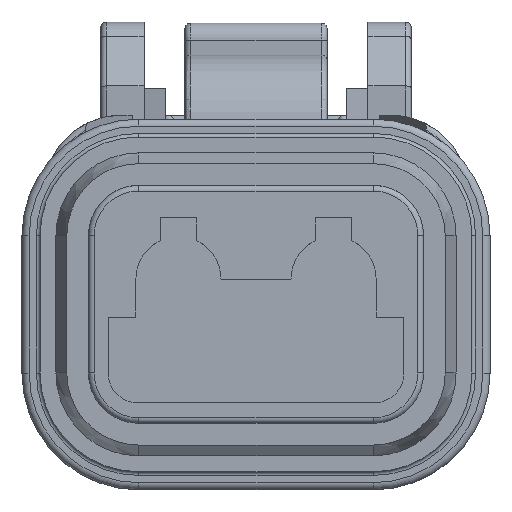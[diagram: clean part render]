
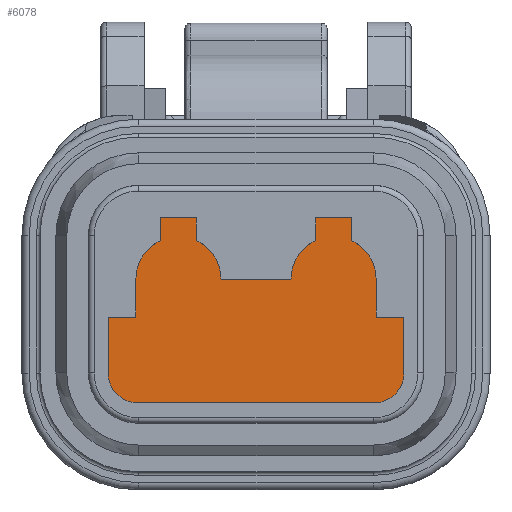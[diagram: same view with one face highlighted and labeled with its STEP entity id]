
A CAD part, top view. The second image highlights one B-rep face of the part: STEP entity #6078.
In plain terms, the highlighted planar face has unit normal (0, 0, 1).
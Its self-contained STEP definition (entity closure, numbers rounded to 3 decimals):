
#272=DIRECTION('',(1.,0.,0.));
#273=VECTOR('',#272,8.458);
#274=CARTESIAN_POINT('',(-4.229,-3.462,-1.));
#275=LINE('',#274,#273);
#344=DIRECTION('',(0.,1.,0.));
#345=VECTOR('',#344,1.337);
#346=CARTESIAN_POINT('',(4.23,-0.45,-1.));
#347=LINE('',#346,#345);
#348=DIRECTION('',(-1.,0.,0.));
#349=VECTOR('',#348,0.978);
#350=CARTESIAN_POINT('',(5.208,-0.45,-1.));
#351=LINE('',#350,#349);
#352=DIRECTION('',(0.,1.,0.));
#353=VECTOR('',#352,1.973);
#354=CARTESIAN_POINT('',(5.208,-2.423,-1.));
#355=LINE('',#354,#353);
#356=CARTESIAN_POINT('',(4.229,-3.462,-1.));
#357=CARTESIAN_POINT('',(4.319,-3.457,-1.));
#358=CARTESIAN_POINT('',(4.488,-3.423,-1.));
#359=CARTESIAN_POINT('',(4.729,-3.312,-1.));
#360=CARTESIAN_POINT('',(4.932,-3.144,-1.));
#361=CARTESIAN_POINT('',(5.088,-2.931,-1.));
#362=CARTESIAN_POINT('',(5.185,-2.684,-1.));
#363=CARTESIAN_POINT('',(5.208,-2.512,-1.));
#364=CARTESIAN_POINT('',(5.208,-2.423,-1.));
#366=CARTESIAN_POINT('',(-5.208,-2.423,-1.));
#367=CARTESIAN_POINT('',(-5.208,-2.512,-1.));
#368=CARTESIAN_POINT('',(-5.185,-2.684,-1.));
#369=CARTESIAN_POINT('',(-5.088,-2.931,-1.));
#370=CARTESIAN_POINT('',(-4.932,-3.144,-1.));
#371=CARTESIAN_POINT('',(-4.729,-3.312,-1.));
#372=CARTESIAN_POINT('',(-4.488,-3.423,-1.));
#373=CARTESIAN_POINT('',(-4.319,-3.457,-1.));
#374=CARTESIAN_POINT('',(-4.229,-3.462,-1.));
#376=DIRECTION('',(0.,-1.,0.));
#377=VECTOR('',#376,1.973);
#378=CARTESIAN_POINT('',(-5.208,-0.45,-1.));
#379=LINE('',#378,#377);
#380=DIRECTION('',(-1.,0.,0.));
#381=VECTOR('',#380,0.978);
#382=CARTESIAN_POINT('',(-4.23,-0.45,-1.));
#383=LINE('',#382,#381);
#384=DIRECTION('',(0.,-1.,0.));
#385=VECTOR('',#384,1.337);
#386=CARTESIAN_POINT('',(-4.23,0.887,-1.));
#387=LINE('',#386,#385);
#388=CARTESIAN_POINT('',(-2.73,0.887,-1.));
#389=DIRECTION('',(0.,0.,1.));
#390=DIRECTION('',(-0.423,0.906,0.));
#391=AXIS2_PLACEMENT_3D('',#388,#389,#390);
#393=DIRECTION('',(0.,-1.,0.));
#394=VECTOR('',#393,0.801);
#395=CARTESIAN_POINT('',(-3.365,3.047,-1.));
#396=LINE('',#395,#394);
#397=DIRECTION('',(-1.,0.,0.));
#398=VECTOR('',#397,1.27);
#399=CARTESIAN_POINT('',(-2.095,3.047,-1.));
#400=LINE('',#399,#398);
#401=DIRECTION('',(0.,1.,0.));
#402=VECTOR('',#401,0.801);
#403=CARTESIAN_POINT('',(-2.095,2.246,-1.));
#404=LINE('',#403,#402);
#405=CARTESIAN_POINT('',(-2.73,0.887,-1.));
#406=DIRECTION('',(0.,0.,1.));
#407=DIRECTION('',(1.,0.,0.));
#408=AXIS2_PLACEMENT_3D('',#405,#406,#407);
#410=DIRECTION('',(-1.,0.,0.));
#411=VECTOR('',#410,2.46);
#412=CARTESIAN_POINT('',(1.23,0.887,-1.));
#413=LINE('',#412,#411);
#414=CARTESIAN_POINT('',(2.73,0.887,-1.));
#415=DIRECTION('',(0.,0.,1.));
#416=DIRECTION('',(-0.423,0.906,0.));
#417=AXIS2_PLACEMENT_3D('',#414,#415,#416);
#419=DIRECTION('',(0.,-1.,0.));
#420=VECTOR('',#419,0.801);
#421=CARTESIAN_POINT('',(2.095,3.047,-1.));
#422=LINE('',#421,#420);
#423=DIRECTION('',(-1.,0.,0.));
#424=VECTOR('',#423,1.27);
#425=CARTESIAN_POINT('',(3.365,3.047,-1.));
#426=LINE('',#425,#424);
#427=DIRECTION('',(0.,1.,0.));
#428=VECTOR('',#427,0.801);
#429=CARTESIAN_POINT('',(3.365,2.246,-1.));
#430=LINE('',#429,#428);
#431=CARTESIAN_POINT('',(2.73,0.887,-1.));
#432=DIRECTION('',(0.,0.,1.));
#433=DIRECTION('',(1.,0.,0.));
#434=AXIS2_PLACEMENT_3D('',#431,#432,#433);
#4665=CARTESIAN_POINT('',(4.23,0.887,-1.));
#4666=CARTESIAN_POINT('',(3.365,2.246,-1.));
#4667=VERTEX_POINT('',#4665);
#4668=VERTEX_POINT('',#4666);
#4673=CARTESIAN_POINT('',(3.365,3.047,-1.));
#4674=VERTEX_POINT('',#4673);
#4675=CARTESIAN_POINT('',(2.095,3.047,-1.));
#4676=VERTEX_POINT('',#4675);
#4677=CARTESIAN_POINT('',(2.095,2.246,-1.));
#4678=VERTEX_POINT('',#4677);
#4679=CARTESIAN_POINT('',(-3.365,2.246,-1.));
#4680=CARTESIAN_POINT('',(-4.23,0.887,-1.));
#4681=VERTEX_POINT('',#4679);
#4682=VERTEX_POINT('',#4680);
#4683=CARTESIAN_POINT('',(-2.095,2.246,-1.));
#4684=CARTESIAN_POINT('',(-2.095,3.047,-1.));
#4685=VERTEX_POINT('',#4683);
#4686=VERTEX_POINT('',#4684);
#4687=CARTESIAN_POINT('',(-3.365,3.047,-1.));
#4688=VERTEX_POINT('',#4687);
#4705=CARTESIAN_POINT('',(5.208,-2.423,-1.));
#4706=CARTESIAN_POINT('',(5.208,-0.45,-1.));
#4707=VERTEX_POINT('',#4705);
#4708=VERTEX_POINT('',#4706);
#4709=CARTESIAN_POINT('',(-5.208,-0.45,-1.));
#4710=CARTESIAN_POINT('',(-5.208,-2.423,-1.));
#4711=VERTEX_POINT('',#4709);
#4712=VERTEX_POINT('',#4710);
#4724=CARTESIAN_POINT('',(-4.23,-0.45,-1.));
#4725=VERTEX_POINT('',#4724);
#4726=CARTESIAN_POINT('',(4.23,-0.45,-1.));
#4727=VERTEX_POINT('',#4726);
#4730=VERTEX_POINT('',#356);
#4731=VERTEX_POINT('',#374);
#4736=CARTESIAN_POINT('',(1.23,0.887,-1.));
#4737=VERTEX_POINT('',#4736);
#4738=CARTESIAN_POINT('',(-1.23,0.887,-1.));
#4739=VERTEX_POINT('',#4738);
#6049=CARTESIAN_POINT('',(0.,0.,-1.));
#6050=DIRECTION('',(0.,0.,1.));
#6051=DIRECTION('',(1.,0.,0.));
#6052=AXIS2_PLACEMENT_3D('',#6049,#6050,#6051);
#6053=PLANE('',#6052);
#6054=ORIENTED_EDGE('',*,*,#6040,.F.);
#6056=ORIENTED_EDGE('',*,*,#6055,.F.);
#6058=ORIENTED_EDGE('',*,*,#6057,.F.);
#6059=ORIENTED_EDGE('',*,*,#5804,.F.);
#6060=ORIENTED_EDGE('',*,*,#5819,.F.);
#6061=ORIENTED_EDGE('',*,*,#5833,.F.);
#6062=ORIENTED_EDGE('',*,*,#5847,.F.);
#6063=ORIENTED_EDGE('',*,*,#5861,.F.);
#6064=ORIENTED_EDGE('',*,*,#5876,.F.);
#6065=ORIENTED_EDGE('',*,*,#5889,.F.);
#6066=ORIENTED_EDGE('',*,*,#5903,.F.);
#6067=ORIENTED_EDGE('',*,*,#5917,.F.);
#6068=ORIENTED_EDGE('',*,*,#5931,.F.);
#6069=ORIENTED_EDGE('',*,*,#5944,.F.);
#6070=ORIENTED_EDGE('',*,*,#5959,.F.);
#6071=ORIENTED_EDGE('',*,*,#5974,.F.);
#6072=ORIENTED_EDGE('',*,*,#5987,.F.);
#6073=ORIENTED_EDGE('',*,*,#6001,.F.);
#6074=ORIENTED_EDGE('',*,*,#6015,.F.);
#6075=ORIENTED_EDGE('',*,*,#6029,.F.);
#6076=EDGE_LOOP('',(#6054,#6056,#6058,#6059,#6060,#6061,#6062,#6063,#6064,#6065,
#6066,#6067,#6068,#6069,#6070,#6071,#6072,#6073,#6074,#6075));
#6077=FACE_OUTER_BOUND('',#6076,.F.);
#365=B_SPLINE_CURVE_WITH_KNOTS('',3,(#356,#357,#358,#359,#360,#361,#362,#363,
#364),.UNSPECIFIED.,.F.,.F.,(4,1,1,1,1,1,4),(0.,0.167,
0.333,0.5,0.667,0.833,1.),
.UNSPECIFIED.);
#375=B_SPLINE_CURVE_WITH_KNOTS('',3,(#366,#367,#368,#369,#370,#371,#372,#373,
#374),.UNSPECIFIED.,.F.,.F.,(4,1,1,1,1,1,4),(0.,0.167,
0.333,0.5,0.667,0.833,1.),
.UNSPECIFIED.);
#392=CIRCLE('',#391,1.5);
#409=CIRCLE('',#408,1.5);
#418=CIRCLE('',#417,1.5);
#435=CIRCLE('',#434,1.5);
#5804=EDGE_CURVE('',#4730,#4707,#365,.T.);
#5819=EDGE_CURVE('',#4731,#4730,#275,.T.);
#5833=EDGE_CURVE('',#4712,#4731,#375,.T.);
#5847=EDGE_CURVE('',#4711,#4712,#379,.T.);
#5861=EDGE_CURVE('',#4725,#4711,#383,.T.);
#5876=EDGE_CURVE('',#4682,#4725,#387,.T.);
#5889=EDGE_CURVE('',#4681,#4682,#392,.T.);
#5903=EDGE_CURVE('',#4688,#4681,#396,.T.);
#5917=EDGE_CURVE('',#4686,#4688,#400,.T.);
#5931=EDGE_CURVE('',#4685,#4686,#404,.T.);
#5944=EDGE_CURVE('',#4739,#4685,#409,.T.);
#5959=EDGE_CURVE('',#4737,#4739,#413,.T.);
#5974=EDGE_CURVE('',#4678,#4737,#418,.T.);
#5987=EDGE_CURVE('',#4676,#4678,#422,.T.);
#6001=EDGE_CURVE('',#4674,#4676,#426,.T.);
#6015=EDGE_CURVE('',#4668,#4674,#430,.T.);
#6029=EDGE_CURVE('',#4667,#4668,#435,.T.);
#6040=EDGE_CURVE('',#4727,#4667,#347,.T.);
#6055=EDGE_CURVE('',#4708,#4727,#351,.T.);
#6057=EDGE_CURVE('',#4707,#4708,#355,.T.);
#6078=ADVANCED_FACE('',(#6077),#6053,.T.);
